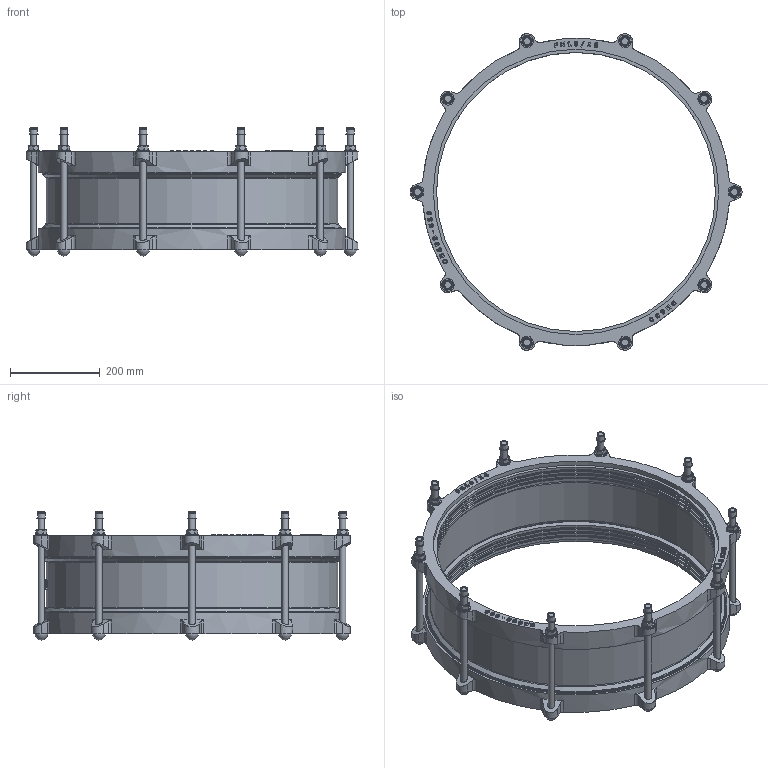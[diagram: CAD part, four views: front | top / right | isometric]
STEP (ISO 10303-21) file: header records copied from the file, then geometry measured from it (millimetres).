
FILE_DESCRIPTION(('STEP AP203'), '1');
FILE_NAME('Cîåäèíèòåëüíàÿ ìóôòà äëÿ æåñòêèõ òðóá', '', ('UNSPECIFIED'), ('UNSPECIFIED'), 'C3D Converter', 'C3D Toolkit', '');
FILE_SCHEMA(('CONFIG_CONTROL_DESIGN'));
Length unit declared in the file: millimetre
Assembly tree (45 placements, depth 2):
  (unnamed)
    (unnamed)
    (unnamed)  x10
    (unnamed)  x10
    (unnamed)  x10
    (unnamed)  x10
    (unnamed)
    (unnamed)
    (unnamed)  x2
Bounding box: 740 x 705.44 x 285.4 mm (x, y, z)
Volume: 8267343.3 mm3; surface area: 2032544.8 mm2
Topology: 49 solids, 49 shells, 1153 faces, 2880 edges, 1899 vertices
Faces by surface type: extrusion 466, plane 384, cylinder 189, cone 76, torus 28, sphere 10
Full cylindrical faces by diameter (mm): 14 x30, 15 x10, 16 x20, 16.8 x10, 19.6 x10, 25.619 x1, 28 x10, 622 x8, 629 x6, 636 x3, 643 x2, 650 x3, 667.5 x2, 671 x4, 685 x2
Entity records: 42105 total; most frequent: CARTESIAN_POINT 16129, ORIENTED_EDGE 4526, DIRECTION 2751, EDGE_CURVE 2263, VERTEX_POINT 1552, B_SPLINE_CURVE_WITH_KNOTS 1528, VECTOR 1401, EDGE_LOOP 1053
